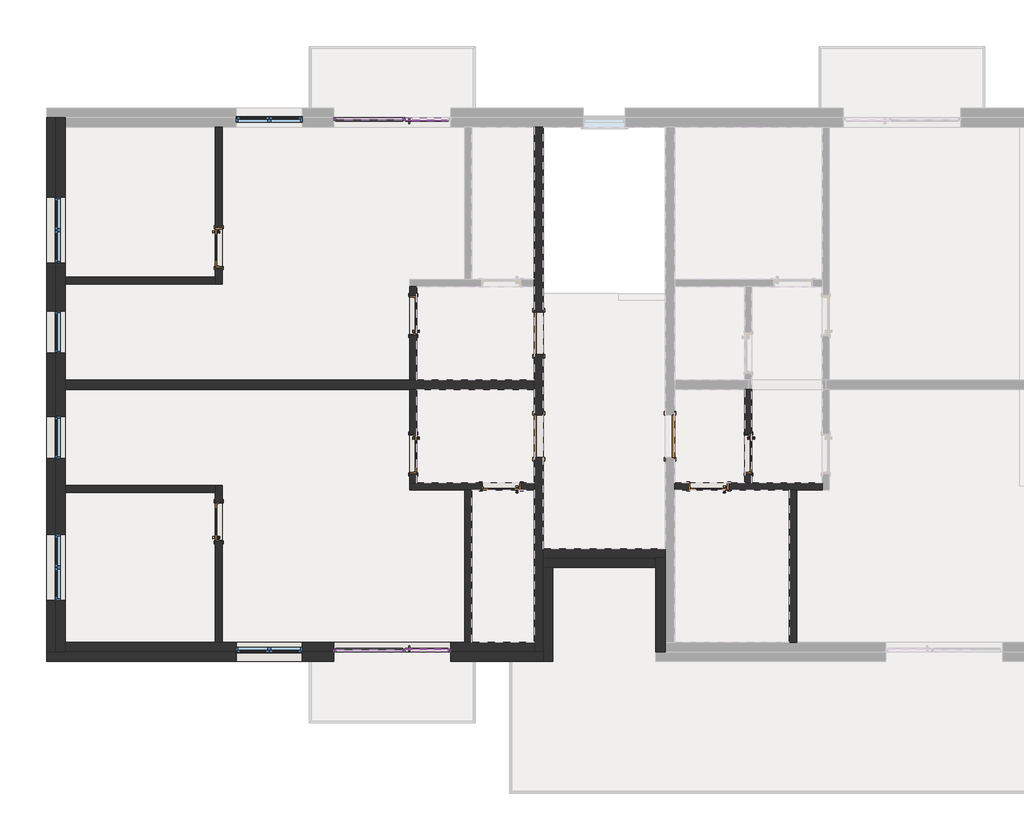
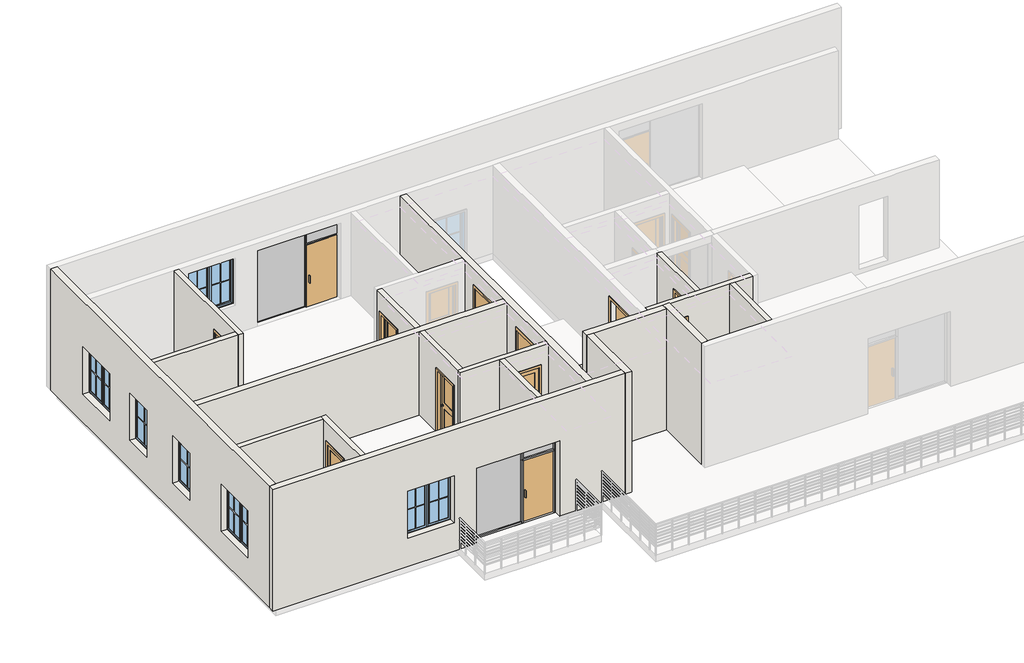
# One storey, part 1 of 6: 21 walls, 18 members, 12 doors, 6 windows, 4 plates.
"""IFC4 building model written with IfcOpenShell, lengths in millimetres."""

from ifc_helpers import new_model, si_unit, frame, origin, place, context, project, spatial, polyline, outline, extrude, faceted_brep, transform, mapped, element, save
from components import door_ff0059c9, door_21d3b074, door_800_x_2000mm_7a4eaae7, door_800_x_2000mm_50fb24a1, door_900_x_2100mm_4fa88ec2, door_900_x_2100mm_1d00f630, member_50x50_mm_0b25df5f, member_50x50_mm_3bf2a5da, member_50x50_mm_d57dae31, member_50x50_mm_7f53e2b4, member_50x50_mm_58209b6d, member_50x50_mm_0f4eb3cd, member_50x50_mm_521fa47b, plate_240b6e4f, plate_5e06e8b0, plate_9c89f185, plate_e159d5d1, window_1400_x_1500mm_e7e683e0, window_900_x_1500mm_75a88522

model = new_model("IFC4")

# Units and contexts
model_context = context("Model", 3, world=origin())
ifc_project = project(units=[si_unit("LENGTHUNIT", "METRE", prefix="MILLI")], contexts=[model_context])

# Site, building, storey
site = spatial("IfcSite", under=ifc_project)
building = spatial("IfcBuilding", under=site)
storey = spatial("IfcBuildingStorey", under=building, Name="Podlaží 2", Elevation=3000.0)

# Doors
placement = place(None, origin())
door_shape = door_ff0059c9(model_context)
element("IfcDoor", 1, ObjectType="M_Dveře, obvodový plášť, jednoduché zasklení : M_Dveře, obvodový plášť, jednoduché zasklení", at=placement, inside=storey, context=model_context, shape_type="MappedRepresentation", body=[
    mapped(door_shape, transform((7712.5, 13675.0, 3000.0), x_axis=(1.0, 0.0, 0.0), y_axis=(0.0, 1.0, 0.0), z_axis=(0.0, 0.0, 1.0))),
])
door_2_shape = door_21d3b074(model_context)
element("IfcDoor", 2, ObjectType="M_Dveře, obvodový plášť, jednoduché zasklení : M_Dveře, obvodový plášť, jednoduché zasklení", at=placement, inside=storey, context=model_context, shape_type="MappedRepresentation", body=[
    mapped(door_2_shape, transform((7712.5, 2325.0, 3000.0), x_axis=(1.0, 0.0, 0.0), y_axis=(0.0, 1.0, 0.0), z_axis=(0.0, 0.0, 1.0))),
])
door_800_x_2000mm_shape = door_800_x_2000mm_7a4eaae7(model_context)
element("IfcDoor", 3, ObjectType="M_Dveře, vnitřní, jednokřídlé, dvě části, panel, dřevo : 800 x 2000mm", at=placement, inside=storey, context=model_context, shape_type="MappedRepresentation", body=[
    mapped(door_800_x_2000mm_shape, transform((7428.175, 9475.0, 3000.0), x_axis=(0.0, 1.0, 0.0), y_axis=(-1.0, 0.0, 0.0), z_axis=(0.0, 0.0, 1.0))),
])
element("IfcDoor", 4, ObjectType="M_Dveře, vnitřní, jednokřídlé, dvě části, panel, dřevo : 800 x 2000mm", at=placement, inside=storey, context=model_context, shape_type="MappedRepresentation", body=[
    mapped(door_800_x_2000mm_shape, transform((3271.825, 10925.0, 3000.0), x_axis=(0.0, -1.0, 0.0), y_axis=(1.0, 0.0, 0.0), z_axis=(0.0, 0.0, 1.0))),
])
door_800_x_2000mm_2_shape = door_800_x_2000mm_50fb24a1(model_context)
element("IfcDoor", 5, ObjectType="M_Dveře, vnitřní, jednokřídlé, dvě části, panel, dřevo : 800 x 2000mm", at=placement, inside=storey, context=model_context, shape_type="MappedRepresentation", body=[
    mapped(door_800_x_2000mm_2_shape, transform((9300.0, 5821.825, 3000.0), x_axis=(-1.0, 0.0, 0.0), y_axis=(0.0, -1.0, 0.0), z_axis=(0.0, 0.0, 1.0))),
])
element("IfcDoor", 6, ObjectType="M_Dveře, vnitřní, jednokřídlé, dvě části, panel, dřevo : 800 x 2000mm", at=placement, inside=storey, context=model_context, shape_type="MappedRepresentation", body=[
    mapped(door_800_x_2000mm_2_shape, transform((7428.175, 6525.0, 3000.0), x_axis=(0.0, -1.0, 0.0), y_axis=(1.0, 0.0, 0.0), z_axis=(0.0, 0.0, 1.0))),
])
element("IfcDoor", 7, ObjectType="M_Dveře, vnitřní, jednokřídlé, dvě části, panel, dřevo : 800 x 2000mm", at=placement, inside=storey, context=model_context, shape_type="MappedRepresentation", body=[
    mapped(door_800_x_2000mm_2_shape, transform((3271.825, 5075.0, 3000.0), x_axis=(0.0, 1.0, 0.0), y_axis=(-1.0, 0.0, 0.0), z_axis=(0.0, 0.0, 1.0))),
])
element("IfcDoor", 8, ObjectType="M_Dveře, vnitřní, jednokřídlé, dvě části, panel, dřevo : 800 x 2000mm", at=placement, inside=storey, context=model_context, shape_type="MappedRepresentation", body=[
    mapped(door_800_x_2000mm_2_shape, transform((14578.175, 6525.0, 3000.0), x_axis=(0.0, -1.0, 0.0), y_axis=(1.0, 0.0, 0.0), z_axis=(0.0, 0.0, 1.0))),
])
element("IfcDoor", 9, ObjectType="M_Dveře, vnitřní, jednokřídlé, dvě části, panel, dřevo : 800 x 2000mm", at=placement, inside=storey, context=model_context, shape_type="MappedRepresentation", body=[
    mapped(door_800_x_2000mm_2_shape, transform((13725.0, 5821.825, 3000.0), x_axis=(-1.0, 0.0, 0.0), y_axis=(0.0, -1.0, 0.0), z_axis=(0.0, 0.0, 1.0))),
])
door_900_x_2100mm_shape = door_900_x_2100mm_4fa88ec2(model_context)
element("IfcDoor", 10, ObjectType="M_Dveře, jednokřídlé, panel : 900 x 2100mm", at=placement, inside=storey, context=model_context, shape_type="MappedRepresentation", body=[
    mapped(door_900_x_2100mm_shape, transform((10100.0, 9100.0, 3000.0), x_axis=(0.0, -1.0, 0.0), y_axis=(1.0, 0.0, 0.0), z_axis=(0.0, 0.0, 1.0))),
])
element("IfcDoor", 11, ObjectType="M_Dveře, jednokřídlé, panel : 900 x 2100mm", at=placement, inside=storey, context=model_context, shape_type="MappedRepresentation", body=[
    mapped(door_900_x_2100mm_shape, transform((12900.0, 6900.0, 3000.0), x_axis=(0.0, 1.0, 0.0), y_axis=(-1.0, 0.0, 0.0), z_axis=(0.0, 0.0, 1.0))),
])
door_900_x_2100mm_2_shape = door_900_x_2100mm_1d00f630(model_context)
element("IfcDoor", 12, ObjectType="M_Dveře, jednokřídlé, panel : 900 x 2100mm", at=placement, inside=storey, context=model_context, shape_type="MappedRepresentation", body=[
    mapped(door_900_x_2100mm_2_shape, transform((10100.0, 6900.0, 3000.0), x_axis=(0.0, 1.0, 0.0), y_axis=(-1.0, 0.0, 0.0), z_axis=(0.0, 0.0, 1.0))),
])

# Members
member_50x50_mm_shape = member_50x50_mm_0b25df5f(model_context)
element("IfcMember", 13, ObjectType="Obdélníková příčel : 50x50 mm", at=placement, inside=storey, context=model_context, shape_type="MappedRepresentation", body=[
    mapped(member_50x50_mm_shape, transform((5775.0, 2325.0, 5400.0), x_axis=(0.0, 0.0, 1.0), y_axis=(0.0, 1.0, 0.0), z_axis=(-1.0, 0.0, 0.0))),
])
member_50x50_mm_2_shape = member_50x50_mm_3bf2a5da(model_context)
element("IfcMember", 14, ObjectType="Obdélníková příčel : 50x50 mm", at=placement, inside=storey, context=model_context, shape_type="MappedRepresentation", body=[
    mapped(member_50x50_mm_2_shape, transform((7225.0, 2325.0, 3000.0), x_axis=(-1.0, 0.0, 0.0), y_axis=(0.0, 1.0, 0.0), z_axis=(0.0, 0.0, -1.0))),
])
member_50x50_mm_3_shape = member_50x50_mm_d57dae31(model_context)
element("IfcMember", 15, ObjectType="Obdélníková příčel : 50x50 mm", at=placement, inside=storey, context=model_context, shape_type="MappedRepresentation", body=[
    mapped(member_50x50_mm_3_shape, transform((7250.0, 2325.0, 5000.0), x_axis=(0.0, 0.0, 1.0), y_axis=(0.0, 1.0, 0.0), z_axis=(-1.0, 0.0, 0.0))),
])
element("IfcMember", 16, ObjectType="Obdélníková příčel : 50x50 mm", at=placement, inside=storey, context=model_context, shape_type="MappedRepresentation", body=[
    mapped(member_50x50_mm_shape, transform((7200.0, 2325.0, 3000.0), x_axis=(0.0, 0.0, -1.0), y_axis=(0.0, 1.0, 0.0), z_axis=(1.0, 0.0, 0.0))),
])
member_50x50_mm_4_shape = member_50x50_mm_7f53e2b4(model_context)
element("IfcMember", 17, ObjectType="Obdélníková příčel : 50x50 mm", at=placement, inside=storey, context=model_context, shape_type="MappedRepresentation", body=[
    mapped(member_50x50_mm_4_shape, transform((7250.0, 2325.0, 5400.0), x_axis=(0.0, 0.0, 1.0), y_axis=(0.0, 1.0, 0.0), z_axis=(-1.0, 0.0, 0.0))),
])
member_50x50_mm_5_shape = member_50x50_mm_58209b6d(model_context)
element("IfcMember", 18, ObjectType="Obdélníková příčel : 50x50 mm", at=placement, inside=storey, context=model_context, shape_type="MappedRepresentation", body=[
    mapped(member_50x50_mm_5_shape, transform((7225.0, 2325.0, 5000.0), x_axis=(-1.0, 0.0, 0.0), y_axis=(0.0, 1.0, 0.0), z_axis=(0.0, 0.0, -1.0))),
])
member_50x50_mm_6_shape = member_50x50_mm_0f4eb3cd(model_context)
element("IfcMember", 19, ObjectType="Obdélníková příčel : 50x50 mm", at=placement, inside=storey, context=model_context, shape_type="MappedRepresentation", body=[
    mapped(member_50x50_mm_6_shape, transform((8225.0, 2325.0, 5400.0), x_axis=(1.0, 0.0, 0.0), y_axis=(0.0, 1.0, 0.0), z_axis=(0.0, 0.0, 1.0))),
])
member_50x50_mm_7_shape = member_50x50_mm_521fa47b(model_context)
element("IfcMember", 20, ObjectType="Obdélníková příčel : 50x50 mm", at=placement, inside=storey, context=model_context, shape_type="MappedRepresentation", body=[
    mapped(member_50x50_mm_7_shape, transform((5725.0, 2325.0, 3000.0), x_axis=(-1.0, 0.0, 0.0), y_axis=(0.0, 1.0, 0.0), z_axis=(0.0, 0.0, -1.0))),
])
element("IfcMember", 21, ObjectType="Obdélníková příčel : 50x50 mm", at=placement, inside=storey, context=model_context, shape_type="MappedRepresentation", body=[
    mapped(member_50x50_mm_6_shape, transform((5725.0, 2325.0, 5000.0), x_axis=(-1.0, 0.0, 0.0), y_axis=(0.0, 1.0, 0.0), z_axis=(0.0, 0.0, -1.0))),
])
element("IfcMember", 22, ObjectType="Obdélníková příčel : 50x50 mm", at=placement, inside=storey, context=model_context, shape_type="MappedRepresentation", body=[
    mapped(member_50x50_mm_7_shape, transform((8225.0, 2325.0, 5000.0), x_axis=(1.0, 0.0, 0.0), y_axis=(0.0, 1.0, 0.0), z_axis=(0.0, 0.0, 1.0))),
])
element("IfcMember", 23, ObjectType="Obdélníková příčel : 50x50 mm", at=placement, inside=storey, context=model_context, shape_type="MappedRepresentation", body=[
    mapped(member_50x50_mm_shape, transform((5775.0, 13675.0, 5400.0), x_axis=(0.0, 0.0, 1.0), y_axis=(0.0, 1.0, 0.0), z_axis=(-1.0, 0.0, 0.0))),
])
element("IfcMember", 24, ObjectType="Obdélníková příčel : 50x50 mm", at=placement, inside=storey, context=model_context, shape_type="MappedRepresentation", body=[
    mapped(member_50x50_mm_2_shape, transform((7225.0, 13675.0, 3000.0), x_axis=(-1.0, 0.0, 0.0), y_axis=(0.0, 1.0, 0.0), z_axis=(0.0, 0.0, -1.0))),
])
element("IfcMember", 25, ObjectType="Obdélníková příčel : 50x50 mm", at=placement, inside=storey, context=model_context, shape_type="MappedRepresentation", body=[
    mapped(member_50x50_mm_3_shape, transform((7250.0, 13675.0, 5000.0), x_axis=(0.0, 0.0, 1.0), y_axis=(0.0, 1.0, 0.0), z_axis=(-1.0, 0.0, 0.0))),
])
element("IfcMember", 26, ObjectType="Obdélníková příčel : 50x50 mm", at=placement, inside=storey, context=model_context, shape_type="MappedRepresentation", body=[
    mapped(member_50x50_mm_shape, transform((7200.0, 13675.0, 3000.0), x_axis=(0.0, 0.0, -1.0), y_axis=(0.0, 1.0, 0.0), z_axis=(1.0, 0.0, 0.0))),
])
element("IfcMember", 27, ObjectType="Obdélníková příčel : 50x50 mm", at=placement, inside=storey, context=model_context, shape_type="MappedRepresentation", body=[
    mapped(member_50x50_mm_4_shape, transform((7250.0, 13675.0, 5400.0), x_axis=(0.0, 0.0, 1.0), y_axis=(0.0, 1.0, 0.0), z_axis=(-1.0, 0.0, 0.0))),
])
element("IfcMember", 28, ObjectType="Obdélníková příčel : 50x50 mm", at=placement, inside=storey, context=model_context, shape_type="MappedRepresentation", body=[
    mapped(member_50x50_mm_5_shape, transform((7225.0, 13675.0, 5000.0), x_axis=(-1.0, 0.0, 0.0), y_axis=(0.0, 1.0, 0.0), z_axis=(0.0, 0.0, -1.0))),
])
element("IfcMember", 29, ObjectType="Obdélníková příčel : 50x50 mm", at=placement, inside=storey, context=model_context, shape_type="MappedRepresentation", body=[
    mapped(member_50x50_mm_7_shape, transform((5725.0, 13675.0, 3000.0), x_axis=(-1.0, 0.0, 0.0), y_axis=(0.0, 1.0, 0.0), z_axis=(0.0, 0.0, -1.0))),
])
element("IfcMember", 30, ObjectType="Obdélníková příčel : 50x50 mm", at=placement, inside=storey, context=model_context, shape_type="MappedRepresentation", body=[
    mapped(member_50x50_mm_6_shape, transform((5725.0, 13675.0, 5000.0), x_axis=(-1.0, 0.0, 0.0), y_axis=(0.0, 1.0, 0.0), z_axis=(0.0, 0.0, -1.0))),
])

# Plates
plate_shape = plate_240b6e4f(model_context)
element("IfcPlate", 31, ObjectType="Systémový panel : Zasklené", at=placement, inside=storey, context=model_context, shape_type="MappedRepresentation", body=[
    mapped(plate_shape, transform((6487.5, 13675.0, 3050.0), x_axis=(-1.0, 0.0, 0.0), y_axis=(0.0, -1.0, 0.0), z_axis=(0.0, 0.0, 1.0))),
])
plate_2_shape = plate_5e06e8b0(model_context)
element("IfcPlate", 32, ObjectType="Systémový panel : Zasklené", at=placement, inside=storey, context=model_context, shape_type="MappedRepresentation", body=[
    mapped(plate_2_shape, transform((7712.5, 13675.0, 5025.0), x_axis=(-1.0, 0.0, 0.0), y_axis=(0.0, -1.0, 0.0), z_axis=(0.0, 0.0, 1.0))),
])
plate_3_shape = plate_9c89f185(model_context)
element("IfcPlate", 33, ObjectType="Systémový panel : Zasklené", at=placement, inside=storey, context=model_context, shape_type="MappedRepresentation", body=[
    mapped(plate_3_shape, transform((6487.5, 2325.0, 3050.0), x_axis=(-1.0, 0.0, 0.0), y_axis=(0.0, -1.0, 0.0), z_axis=(0.0, 0.0, 1.0))),
])
plate_4_shape = plate_e159d5d1(model_context)
element("IfcPlate", 34, ObjectType="Systémový panel : Zasklené", at=placement, inside=storey, context=model_context, shape_type="MappedRepresentation", body=[
    mapped(plate_4_shape, transform((7712.5, 2325.0, 5025.0), x_axis=(-1.0, 0.0, 0.0), y_axis=(0.0, -1.0, 0.0), z_axis=(0.0, 0.0, 1.0))),
])

# Walls
element("IfcWall", 35, ObjectType="Železobeton 200 mm", at=placement, inside=storey, context=model_context, shape_type="Brep", body=[
    faceted_brep([(0.0, 2300.0, 2850.0), (0.0, 2500.0, 2850.0), (0.0, 5700.0, 2850.0), (0.0, 5850.0, 2850.0), (0.0, 7900.0, 2850.0), (0.0, 8100.0, 2850.0), (0.0, 10150.0, 2850.0), (0.0, 10300.0, 2850.0), (0.0, 13500.0, 2850.0), (0.0, 13700.0, 2850.0), (0.0, 13700.0, 5650.0), (0.0, 13500.0, 5650.0), (0.0, 10300.0, 5650.0), (0.0, 10150.0, 5650.0), (0.0, 8100.0, 5650.0), (0.0, 7900.0, 5650.0), (0.0, 5850.0, 5650.0), (0.0, 5700.0, 5650.0), (0.0, 2500.0, 5650.0), (0.0, 2300.0, 5650.0), (0.0, 3400.0, 5400.0), (0.0, 4800.0, 5400.0), (0.0, 4800.0, 3900.0), (0.0, 3400.0, 3900.0), (0.0, 10600.0, 5400.0), (0.0, 12000.0, 5400.0), (0.0, 12000.0, 3900.0), (0.0, 10600.0, 3900.0), (0.0, 6425.0, 5400.0), (0.0, 7325.0, 5400.0), (0.0, 7325.0, 3900.0), (0.0, 6425.0, 3900.0), (0.0, 8675.0, 5400.0), (0.0, 9575.0, 5400.0), (0.0, 9575.0, 3900.0), (0.0, 8675.0, 3900.0), (-200.0, 2300.0, 2850.0), (-200.0, 2300.0, 3000.0), (-200.0, 2300.0, 5650.0), (-200.0, 13700.0, 5650.0), (-200.0, 13700.0, 3000.0), (-200.0, 13700.0, 2850.0), (-200.0, 3400.0, 5400.0), (-200.0, 3400.0, 3900.0), (-200.0, 4800.0, 3900.0), (-200.0, 4800.0, 5400.0), (-200.0, 10600.0, 5400.0), (-200.0, 10600.0, 3900.0), (-200.0, 12000.0, 3900.0), (-200.0, 12000.0, 5400.0), (-200.0, 6425.0, 5400.0), (-200.0, 6425.0, 3900.0), (-200.0, 7325.0, 3900.0), (-200.0, 7325.0, 5400.0), (-200.0, 8675.0, 5400.0), (-200.0, 8675.0, 3900.0), (-200.0, 9575.0, 3900.0), (-200.0, 9575.0, 5400.0)], [[[0, 1, 2, 3, 4, 5, 6, 7, 8, 9, 10, 11, 12, 13, 14, 15, 16, 17, 18, 19], [20, 21, 22, 23], [24, 25, 26, 27], [28, 29, 30, 31], [32, 33, 34, 35]], [[36, 37, 38, 39, 40, 41], [42, 43, 44, 45], [46, 47, 48, 49], [50, 51, 52, 53], [54, 55, 56, 57]], [[9, 8, 7, 6, 5, 4, 3, 2, 1, 0, 36, 41]], [[19, 18, 17, 16, 15, 14, 13, 12, 11, 10, 39, 38]], [[10, 9, 41, 40, 39]], [[0, 19, 38, 37, 36]], [[43, 42, 20, 23]], [[44, 43, 23, 22]], [[45, 44, 22, 21]], [[42, 45, 21, 20]], [[47, 46, 24, 27]], [[48, 47, 27, 26]], [[49, 48, 26, 25]], [[46, 49, 25, 24]], [[51, 50, 28, 31]], [[52, 51, 31, 30]], [[53, 52, 30, 29]], [[50, 53, 29, 28]], [[55, 54, 32, 35]], [[56, 55, 35, 34]], [[57, 56, 34, 33]], [[54, 57, 33, 32]]]),
])
element("IfcWall", 36, ObjectType="Železobeton 200 mm", at=placement, inside=storey, context=model_context, shape_type="Brep", body=[
    faceted_brep([(12800.0, 4500.0, 2850.0), (10200.0, 4500.0, 2850.0), (10200.0, 4500.0, 5650.0), (12800.0, 4500.0, 5650.0), (12800.0, 4300.0, 2850.0), (12800.0, 4300.0, 3000.0), (12800.0, 4300.0, 5650.0), (10200.0, 4300.0, 5650.0), (10200.0, 4300.0, 3000.0), (10200.0, 4300.0, 2850.0)], [[[0, 1, 2, 3]], [[4, 5, 6, 7, 8, 9]], [[1, 0, 4, 9]], [[3, 2, 7, 6]], [[0, 3, 6, 5, 4]], [[2, 1, 9, 8, 7]]]),
])
element("IfcWall", 37, ObjectType="Železobeton 200 mm", at=placement, inside=storey, context=model_context, shape_type="Brep", body=[
    faceted_brep([(10000.0, 13500.0, 2850.0), (10000.0, 10250.0, 2850.0), (10000.0, 10100.0, 2850.0), (10000.0, 8100.0, 2850.0), (10000.0, 7900.0, 2850.0), (10000.0, 5900.0, 2850.0), (10000.0, 5750.0, 2850.0), (10000.0, 2500.0, 2850.0), (10000.0, 2300.0, 2850.0), (10000.0, 2300.0, 5650.0), (10000.0, 2500.0, 5650.0), (10000.0, 5750.0, 5650.0), (10000.0, 5900.0, 5650.0), (10000.0, 7900.0, 5650.0), (10000.0, 8100.0, 5650.0), (10000.0, 10100.0, 5650.0), (10000.0, 10250.0, 5650.0), (10000.0, 13500.0, 5650.0), (10000.0, 9550.0, 3000.0), (10000.0, 9550.0, 5100.0), (10000.0, 8650.0, 5100.0), (10000.0, 8650.0, 3000.0), (10000.0, 6450.0, 3000.0), (10000.0, 7350.0, 3000.0), (10000.0, 7350.0, 5100.0), (10000.0, 6450.0, 5100.0), (10200.0, 13500.0, 2850.0), (10200.0, 13500.0, 5650.0), (10200.0, 4500.0, 5650.0), (10200.0, 4300.0, 5650.0), (10200.0, 2300.0, 5650.0), (10200.0, 2300.0, 3000.0), (10200.0, 2300.0, 2850.0), (10200.0, 4300.0, 2850.0), (10200.0, 4500.0, 2850.0), (10200.0, 9550.0, 3000.0), (10200.0, 8650.0, 3000.0), (10200.0, 8650.0, 5100.0), (10200.0, 9550.0, 5100.0), (10200.0, 6450.0, 3000.0), (10200.0, 6450.0, 5100.0), (10200.0, 7350.0, 5100.0), (10200.0, 7350.0, 3000.0)], [[[0, 1, 2, 3, 4, 5, 6, 7, 8, 9, 10, 11, 12, 13, 14, 15, 16, 17], [18, 19, 20, 21], [22, 23, 24, 25]], [[26, 27, 28, 29, 30, 31, 32, 33, 34], [35, 36, 37, 38], [39, 40, 41, 42]], [[8, 7, 6, 5, 4, 3, 2, 1, 0, 26, 34, 33, 32]], [[17, 16, 15, 14, 13, 12, 11, 10, 9, 30, 29, 28, 27]], [[9, 8, 32, 31, 30]], [[0, 17, 27, 26]], [[36, 35, 18, 21]], [[37, 36, 21, 20]], [[38, 37, 20, 19]], [[35, 38, 19, 18]], [[23, 22, 39, 42]], [[24, 23, 42, 41]], [[25, 24, 41, 40]], [[22, 25, 40, 39]]]),
])
element("IfcWall", 38, ObjectType="Železobeton 200 mm", at=placement, inside=storey, context=model_context, shape_type="Brep", body=[
    faceted_brep([(10000.0, 2500.0, 2850.0), (8675.0, 2500.0, 2850.0), (8525.0, 2500.0, 2850.0), (3350.0, 2500.0, 2850.0), (3200.0, 2500.0, 2850.0), (0.0, 2500.0, 2850.0), (0.0, 2500.0, 5650.0), (3200.0, 2500.0, 5650.0), (3350.0, 2500.0, 5650.0), (8525.0, 2500.0, 5650.0), (8675.0, 2500.0, 5650.0), (10000.0, 2500.0, 5650.0), (5050.0, 2500.0, 5400.0), (3650.0, 2500.0, 5400.0), (3650.0, 2500.0, 3900.0), (5050.0, 2500.0, 3900.0), (8225.0, 2500.0, 3000.0), (8225.0, 2500.0, 5400.0), (5725.0, 2500.0, 5400.0), (5725.0, 2500.0, 3000.0), (0.0, 2300.0, 2850.0), (10000.0, 2300.0, 2850.0), (10000.0, 2300.0, 5650.0), (0.0, 2300.0, 5650.0), (5050.0, 2300.0, 5400.0), (5050.0, 2300.0, 3900.0), (3650.0, 2300.0, 3900.0), (3650.0, 2300.0, 5400.0), (8225.0, 2300.0, 5400.0), (8225.0, 2300.0, 3000.0), (5725.0, 2300.0, 3000.0), (5725.0, 2300.0, 5400.0)], [[[0, 1, 2, 3, 4, 5, 6, 7, 8, 9, 10, 11], [12, 13, 14, 15], [16, 17, 18, 19]], [[20, 21, 22, 23], [24, 25, 26, 27], [28, 29, 30, 31]], [[5, 4, 3, 2, 1, 0, 21, 20]], [[11, 10, 9, 8, 7, 6, 23, 22]], [[0, 11, 22, 21]], [[6, 5, 20, 23]], [[25, 24, 12, 15]], [[26, 25, 15, 14]], [[27, 26, 14, 13]], [[24, 27, 13, 12]], [[16, 29, 28, 17]], [[17, 28, 31, 18]], [[18, 31, 30, 19]], [[29, 16, 19, 30]]]),
])
element("IfcWall", 39, ObjectType="Železobeton 200 mm", at=placement, inside=storey, context=model_context, shape_type="Brep", body=[
    faceted_brep([(0.0, 7900.0, 2850.0), (7350.0, 7900.0, 2850.0), (7500.0, 7900.0, 2850.0), (10000.0, 7900.0, 2850.0), (10000.0, 7900.0, 5650.0), (7500.0, 7900.0, 5650.0), (7350.0, 7900.0, 5650.0), (0.0, 7900.0, 5650.0), (0.0, 8100.0, 2850.0), (0.0, 8100.0, 5650.0), (7350.0, 8100.0, 5650.0), (7500.0, 8100.0, 5650.0), (10000.0, 8100.0, 5650.0), (10000.0, 8100.0, 2850.0), (7500.0, 8100.0, 2850.0), (7350.0, 8100.0, 2850.0)], [[[0, 1, 2, 3, 4, 5, 6, 7]], [[8, 9, 10, 11, 12, 13, 14, 15]], [[3, 2, 1, 0, 8, 15, 14, 13]], [[7, 6, 5, 4, 12, 11, 10, 9]], [[4, 3, 13, 12]], [[0, 7, 9, 8]]]),
])
element("IfcWall", 40, ObjectType="Obecné, 150mm cihla", at=placement, inside=storey, context=model_context, shape_type="SweptSolid", body=[
    extrude(outline(polyline([(10100.0, 2850.0), (8100.0, 2850.0), (8100.0, 5650.0), (10100.0, 5650.0), (10100.0, 2850.0)]), holes=[polyline([(9900.0, 3000.0), (9900.0, 5025.0), (9050.0, 5025.0), (9050.0, 3000.0), (9900.0, 3000.0)])]), frame((7350.0, 0.0, 0.0), z_axis=(1.0, 0.0, 0.0), x_axis=(0.0, 1.0, 0.0)), (0.0, 0.0, 1.0), 150.0),
])
element("IfcWall", 41, ObjectType="Obecné, 150mm cihla", at=placement, inside=storey, context=model_context, shape_type="Brep", body=[
    faceted_brep([(3200.0, 13500.0, 2850.0), (3200.0, 10300.0, 2850.0), (3200.0, 10150.0, 2850.0), (3200.0, 10150.0, 5650.0), (3200.0, 10300.0, 5650.0), (3200.0, 13500.0, 5650.0), (3200.0, 10500.0, 5025.0), (3200.0, 10500.0, 3000.0), (3200.0, 11350.0, 3000.0), (3200.0, 11350.0, 5025.0), (3350.0, 10150.0, 2850.0), (3350.0, 13500.0, 2850.0), (3350.0, 13500.0, 5650.0), (3350.0, 10150.0, 5650.0), (3350.0, 10500.0, 3000.0), (3350.0, 10500.0, 5025.0), (3350.0, 11350.0, 5025.0), (3350.0, 11350.0, 3000.0)], [[[0, 1, 2, 3, 4, 5], [6, 7, 8, 9]], [[10, 11, 12, 13], [14, 15, 16, 17]], [[2, 1, 0, 11, 10]], [[5, 4, 3, 13, 12]], [[0, 5, 12, 11]], [[3, 2, 10, 13]], [[14, 7, 6, 15]], [[15, 6, 9, 16]], [[16, 9, 8, 17]], [[7, 14, 17, 8]]]),
])
element("IfcWall", 42, ObjectType="Obecné, 150mm cihla", at=placement, inside=storey, context=model_context, shape_type="SweptSolid", body=[
    extrude(outline(polyline([(0.0, 10300.0), (3200.0, 10300.0), (3200.0, 10150.0), (0.0, 10150.0), (0.0, 10300.0)])), frame((0.0, 0.0, 2850.0), z_axis=(0.0, 0.0, 1.0), x_axis=(1.0, 0.0, 0.0)), (0.0, 0.0, 1.0), 2800.0),
])
element("IfcWall", 43, ObjectType="Obecné, 150mm cihla", at=placement, inside=storey, context=model_context, shape_type="Brep", body=[
    faceted_brep([(10000.0, 5900.0, 2850.0), (7500.0, 5900.0, 2850.0), (7350.0, 5900.0, 2850.0), (7350.0, 5900.0, 5650.0), (7500.0, 5900.0, 5650.0), (10000.0, 5900.0, 5650.0), (8875.0, 5900.0, 5025.0), (8875.0, 5900.0, 3000.0), (9725.0, 5900.0, 3000.0), (9725.0, 5900.0, 5025.0), (7350.0, 5750.0, 2850.0), (8525.0, 5750.0, 2850.0), (8675.0, 5750.0, 2850.0), (10000.0, 5750.0, 2850.0), (10000.0, 5750.0, 5650.0), (8675.0, 5750.0, 5650.0), (8525.0, 5750.0, 5650.0), (7350.0, 5750.0, 5650.0), (8875.0, 5750.0, 3000.0), (8875.0, 5750.0, 5025.0), (9725.0, 5750.0, 5025.0), (9725.0, 5750.0, 3000.0)], [[[0, 1, 2, 3, 4, 5], [6, 7, 8, 9]], [[10, 11, 12, 13, 14, 15, 16, 17], [18, 19, 20, 21]], [[2, 1, 0, 13, 12, 11, 10]], [[5, 4, 3, 17, 16, 15, 14]], [[3, 2, 10, 17]], [[0, 5, 14, 13]], [[18, 7, 6, 19]], [[19, 6, 9, 20]], [[20, 9, 8, 21]], [[7, 18, 21, 8]]]),
])
element("IfcWall", 44, ObjectType="Obecné, 150mm cihla", at=placement, inside=storey, context=model_context, shape_type="SweptSolid", body=[
    extrude(outline(polyline([(7900.0, 2850.0), (5900.0, 2850.0), (5900.0, 5650.0), (7900.0, 5650.0), (7900.0, 2850.0)]), holes=[polyline([(6100.0, 5025.0), (6100.0, 3000.0), (6950.0, 3000.0), (6950.0, 5025.0), (6100.0, 5025.0)])]), frame((7350.0, 0.0, 0.0), z_axis=(1.0, 0.0, 0.0), x_axis=(0.0, 1.0, 0.0)), (0.0, 0.0, 1.0), 150.0),
])
element("IfcWall", 45, ObjectType="Obecné, 150mm cihla", at=placement, inside=storey, context=model_context, shape_type="SweptSolid", body=[
    extrude(outline(polyline([(8525.0, 2500.0), (8525.0, 5750.0), (8675.0, 5750.0), (8675.0, 2500.0), (8525.0, 2500.0)])), frame((0.0, 0.0, 2850.0), z_axis=(0.0, 0.0, 1.0), x_axis=(1.0, 0.0, 0.0)), (0.0, 0.0, 1.0), 2800.0),
])
element("IfcWall", 46, ObjectType="Obecné, 150mm cihla", at=placement, inside=storey, context=model_context, shape_type="Brep", body=[
    faceted_brep([(3350.0, 2500.0, 2850.0), (3350.0, 5850.0, 2850.0), (3350.0, 5850.0, 5650.0), (3350.0, 2500.0, 5650.0), (3350.0, 5500.0, 5025.0), (3350.0, 5500.0, 3000.0), (3350.0, 4650.0, 3000.0), (3350.0, 4650.0, 5025.0), (3200.0, 5850.0, 2850.0), (3200.0, 5700.0, 2850.0), (3200.0, 2500.0, 2850.0), (3200.0, 2500.0, 5650.0), (3200.0, 5700.0, 5650.0), (3200.0, 5850.0, 5650.0), (3200.0, 5500.0, 3000.0), (3200.0, 5500.0, 5025.0), (3200.0, 4650.0, 5025.0), (3200.0, 4650.0, 3000.0)], [[[0, 1, 2, 3], [4, 5, 6, 7]], [[8, 9, 10, 11, 12, 13], [14, 15, 16, 17]], [[1, 0, 10, 9, 8]], [[3, 2, 13, 12, 11]], [[2, 1, 8, 13]], [[0, 3, 11, 10]], [[14, 5, 4, 15]], [[15, 4, 7, 16]], [[16, 7, 6, 17]], [[5, 14, 17, 6]]]),
])
element("IfcWall", 47, ObjectType="Obecné, 150mm cihla", at=placement, inside=storey, context=model_context, shape_type="SweptSolid", body=[
    extrude(outline(polyline([(0.0, 5850.0), (3200.0, 5850.0), (3200.0, 5700.0), (0.0, 5700.0), (0.0, 5850.0)])), frame((0.0, 0.0, 2850.0), z_axis=(0.0, 0.0, 1.0), x_axis=(1.0, 0.0, 0.0)), (0.0, 0.0, 1.0), 2800.0),
])
element("IfcWall", 48, ObjectType="Obecné, 150mm cihla", at=placement, inside=storey, context=model_context, shape_type="Brep", body=[
    faceted_brep([(14650.0, 5900.0, 2850.0), (14650.0, 7900.0, 2850.0), (14650.0, 7900.0, 3000.0), (14650.0, 7900.0, 5400.0), (14650.0, 7900.0, 5650.0), (14650.0, 5900.0, 5650.0), (14650.0, 6100.0, 3000.0), (14650.0, 6100.0, 5025.0), (14650.0, 6950.0, 5025.0), (14650.0, 6950.0, 3000.0), (14500.0, 7900.0, 2850.0), (14500.0, 5900.0, 2850.0), (14500.0, 5900.0, 5650.0), (14500.0, 7900.0, 5650.0), (14500.0, 6100.0, 5025.0), (14500.0, 6100.0, 3000.0), (14500.0, 6950.0, 3000.0), (14500.0, 6950.0, 5025.0), (14575.0, 7900.0, 2850.0), (14575.0, 7900.0, 5650.0)], [[[0, 1, 2, 3, 4, 5], [6, 7, 8, 9]], [[10, 11, 12, 13], [14, 15, 16, 17]], [[1, 0, 11, 10, 18]], [[5, 4, 19, 13, 12]], [[0, 5, 12, 11]], [[6, 15, 14, 7]], [[7, 14, 17, 8]], [[8, 17, 16, 9]], [[15, 6, 9, 16]], [[4, 3, 2, 1, 18, 10, 13, 19]]]),
])
element("IfcWall", 49, ObjectType="Obecné, 150mm cihla", at=placement, inside=storey, context=model_context, shape_type="Brep", body=[
    faceted_brep([(13000.0, 5750.0, 2850.0), (15450.0, 5750.0, 2850.0), (15600.0, 5750.0, 2850.0), (16150.0, 5750.0, 2850.0), (16150.0, 5750.0, 5650.0), (15600.0, 5750.0, 5650.0), (15450.0, 5750.0, 5650.0), (13000.0, 5750.0, 5650.0), (13300.0, 5750.0, 3000.0), (13300.0, 5750.0, 5025.0), (14150.0, 5750.0, 5025.0), (14150.0, 5750.0, 3000.0), (16150.0, 5900.0, 2850.0), (14650.0, 5900.0, 2850.0), (14500.0, 5900.0, 2850.0), (13000.0, 5900.0, 2850.0), (13000.0, 5900.0, 5650.0), (14500.0, 5900.0, 5650.0), (14650.0, 5900.0, 5650.0), (16150.0, 5900.0, 5650.0), (13300.0, 5900.0, 5025.0), (13300.0, 5900.0, 3000.0), (14150.0, 5900.0, 3000.0), (14150.0, 5900.0, 5025.0)], [[[0, 1, 2, 3, 4, 5, 6, 7], [8, 9, 10, 11]], [[12, 13, 14, 15, 16, 17, 18, 19], [20, 21, 22, 23]], [[3, 2, 1, 0, 15, 14, 13, 12]], [[7, 6, 5, 4, 19, 18, 17, 16]], [[0, 7, 16, 15]], [[4, 3, 12, 19]], [[8, 21, 20, 9]], [[9, 20, 23, 10]], [[10, 23, 22, 11]], [[21, 8, 11, 22]]]),
])
element("IfcWall", 50, ObjectType="Obecné, 150mm cihla", at=placement, inside=storey, context=model_context, shape_type="SweptSolid", body=[
    extrude(outline(polyline([(15450.0, 2500.0), (15450.0, 5750.0), (15600.0, 5750.0), (15600.0, 2500.0), (15450.0, 2500.0)])), frame((0.0, 0.0, 2850.0), z_axis=(0.0, 0.0, 1.0), x_axis=(1.0, 0.0, 0.0)), (0.0, 0.0, 1.0), 2800.0),
])
element("IfcWall", 51, ObjectType="ETICS, 200mm", at=placement, inside=storey, context=model_context, shape_type="Brep", body=[
    faceted_brep([(12800.0, 2300.0, 3000.0), (12800.0, 4300.0, 3000.0), (12800.0, 4300.0, 5650.0), (12800.0, 4300.0, 6850.0), (12800.0, 2300.0, 6850.0), (12800.0, 2300.0, 5650.0), (12600.0, 2300.0, 3000.0), (12600.0, 2300.0, 6850.0), (12600.0, 4100.0, 6850.0), (12600.0, 4300.0, 6850.0), (12600.0, 4300.0, 3000.0), (12600.0, 4100.0, 3000.0)], [[[0, 1, 2, 3, 4, 5]], [[6, 7, 8, 9, 10, 11]], [[1, 0, 6, 11, 10]], [[4, 3, 9, 8, 7]], [[0, 5, 4, 7, 6]], [[3, 2, 1, 10, 9]]]),
])
element("IfcWall", 52, ObjectType="ETICS, 200mm", at=placement, inside=storey, context=model_context, shape_type="Brep", body=[
    faceted_brep([(12600.0, 4300.0, 3000.0), (10200.0, 4300.0, 3000.0), (10200.0, 4300.0, 5650.0), (10200.0, 4300.0, 6850.0), (12600.0, 4300.0, 6850.0), (12600.0, 4100.0, 3000.0), (12600.0, 4100.0, 6850.0), (10400.0, 4100.0, 6850.0), (10200.0, 4100.0, 6850.0), (10200.0, 4100.0, 3000.0), (10400.0, 4100.0, 3000.0)], [[[0, 1, 2, 3, 4]], [[5, 6, 7, 8, 9, 10]], [[1, 0, 5, 10, 9]], [[4, 3, 8, 7, 6]], [[0, 4, 6, 5]], [[3, 2, 1, 9, 8]]]),
])
element("IfcWall", 53, ObjectType="ETICS, 200mm", at=placement, inside=storey, context=model_context, shape_type="Brep", body=[
    faceted_brep([(10200.0, 4100.0, 3000.0), (10200.0, 2300.0, 3000.0), (10200.0, 2100.0, 3000.0), (10200.0, 2100.0, 6850.0), (10200.0, 2300.0, 6850.0), (10200.0, 4100.0, 6850.0), (10400.0, 4100.0, 3000.0), (10400.0, 4100.0, 6850.0), (10400.0, 2100.0, 6850.0), (10400.0, 2100.0, 3000.0)], [[[0, 1, 2, 3, 4, 5]], [[6, 7, 8, 9]], [[2, 1, 0, 6, 9]], [[5, 4, 3, 8, 7]], [[3, 2, 9, 8]], [[0, 5, 7, 6]]]),
])
element("IfcWall", 54, ObjectType="ETICS, 200mm", at=placement, inside=storey, context=model_context, shape_type="Brep", body=[
    faceted_brep([(-400.0, 2300.0, 6850.0), (-200.0, 2300.0, 6850.0), (10200.0, 2300.0, 6850.0), (10200.0, 2300.0, 5650.0), (10200.0, 2300.0, 3000.0), (8225.0, 2300.0, 3000.0), (8225.0, 2300.0, 5400.0), (5725.0, 2300.0, 5400.0), (5725.0, 2300.0, 3000.0), (-200.0, 2300.0, 3000.0), (-400.0, 2300.0, 3000.0), (5050.0, 2300.0, 5400.0), (3650.0, 2300.0, 5400.0), (3650.0, 2300.0, 3900.0), (5050.0, 2300.0, 3900.0), (10200.0, 2100.0, 6850.0), (-400.0, 2100.0, 6850.0), (-400.0, 2100.0, 3000.0), (5725.0, 2100.0, 3000.0), (5725.0, 2100.0, 5400.0), (8225.0, 2100.0, 5400.0), (8225.0, 2100.0, 3000.0), (10200.0, 2100.0, 3000.0), (5050.0, 2100.0, 5400.0), (5050.0, 2100.0, 3900.0), (3650.0, 2100.0, 3900.0), (3650.0, 2100.0, 5400.0)], [[[0, 1, 2, 3, 4, 5, 6, 7, 8, 9, 10], [11, 12, 13, 14]], [[15, 16, 17, 18, 19, 20, 21, 22], [23, 24, 25, 26]], [[4, 22, 21, 5]], [[17, 10, 9, 8, 18]], [[2, 1, 0, 16, 15]], [[4, 3, 2, 15, 22]], [[0, 10, 17, 16]], [[24, 23, 11, 14]], [[25, 24, 14, 13]], [[26, 25, 13, 12]], [[23, 26, 12, 11]], [[20, 6, 5, 21]], [[6, 20, 19, 7]], [[7, 19, 18, 8]]]),
])
element("IfcWall", 55, ObjectType="ETICS, 200mm", at=placement, inside=storey, context=model_context, shape_type="Brep", body=[
    faceted_brep([(-200.0, 2300.0, 3000.0), (-200.0, 13700.0, 3000.0), (-200.0, 13700.0, 5650.0), (-200.0, 13700.0, 6850.0), (-200.0, 2300.0, 6850.0), (-200.0, 2300.0, 5650.0), (-200.0, 3400.0, 5400.0), (-200.0, 4800.0, 5400.0), (-200.0, 4800.0, 3900.0), (-200.0, 3400.0, 3900.0), (-200.0, 10600.0, 5400.0), (-200.0, 12000.0, 5400.0), (-200.0, 12000.0, 3900.0), (-200.0, 10600.0, 3900.0), (-200.0, 6425.0, 5400.0), (-200.0, 7325.0, 5400.0), (-200.0, 7325.0, 3900.0), (-200.0, 6425.0, 3900.0), (-200.0, 8675.0, 5400.0), (-200.0, 9575.0, 5400.0), (-200.0, 9575.0, 3900.0), (-200.0, 8675.0, 3900.0), (-400.0, 2300.0, 3000.0), (-400.0, 2300.0, 6850.0), (-400.0, 13700.0, 6850.0), (-400.0, 13700.0, 3000.0), (-400.0, 3400.0, 5400.0), (-400.0, 3400.0, 3900.0), (-400.0, 4800.0, 3900.0), (-400.0, 4800.0, 5400.0), (-400.0, 10600.0, 5400.0), (-400.0, 10600.0, 3900.0), (-400.0, 12000.0, 3900.0), (-400.0, 12000.0, 5400.0), (-400.0, 6425.0, 5400.0), (-400.0, 6425.0, 3900.0), (-400.0, 7325.0, 3900.0), (-400.0, 7325.0, 5400.0), (-400.0, 8675.0, 5400.0), (-400.0, 8675.0, 3900.0), (-400.0, 9575.0, 3900.0), (-400.0, 9575.0, 5400.0)], [[[0, 1, 2, 3, 4, 5], [6, 7, 8, 9], [10, 11, 12, 13], [14, 15, 16, 17], [18, 19, 20, 21]], [[22, 23, 24, 25], [26, 27, 28, 29], [30, 31, 32, 33], [34, 35, 36, 37], [38, 39, 40, 41]], [[1, 0, 22, 25]], [[4, 3, 24, 23]], [[3, 2, 1, 25, 24]], [[0, 5, 4, 23, 22]], [[27, 26, 6, 9]], [[28, 27, 9, 8]], [[29, 28, 8, 7]], [[26, 29, 7, 6]], [[31, 30, 10, 13]], [[32, 31, 13, 12]], [[33, 32, 12, 11]], [[30, 33, 11, 10]], [[35, 34, 14, 17]], [[36, 35, 17, 16]], [[37, 36, 16, 15]], [[34, 37, 15, 14]], [[39, 38, 18, 21]], [[40, 39, 21, 20]], [[41, 40, 20, 19]], [[38, 41, 19, 18]]]),
])

# Windows
window_1400_x_1500mm_shape = window_1400_x_1500mm_e7e683e0(model_context)
element("IfcWindow", 56, ObjectType="M_Okno, dvoukřídlé : 1400 x 1500mm", at=placement, inside=storey, context=model_context, shape_type="MappedRepresentation", body=[
    mapped(window_1400_x_1500mm_shape, transform((4350.0, 2400.0, 3000.0), x_axis=(1.0, 0.0, 0.0), y_axis=(0.0, 1.0, 0.0), z_axis=(0.0, 0.0, 1.0))),
])
element("IfcWindow", 57, ObjectType="M_Okno, dvoukřídlé : 1400 x 1500mm", at=placement, inside=storey, context=model_context, shape_type="MappedRepresentation", body=[
    mapped(window_1400_x_1500mm_shape, transform((-100.0, 4100.0, 3000.0), x_axis=(0.0, -1.0, 0.0), y_axis=(1.0, 0.0, 0.0), z_axis=(0.0, 0.0, 1.0))),
])
element("IfcWindow", 58, ObjectType="M_Okno, dvoukřídlé : 1400 x 1500mm", at=placement, inside=storey, context=model_context, shape_type="MappedRepresentation", body=[
    mapped(window_1400_x_1500mm_shape, transform((-100.0, 11300.0, 3000.0), x_axis=(0.0, -1.0, 0.0), y_axis=(1.0, 0.0, 0.0), z_axis=(0.0, 0.0, 1.0))),
])
element("IfcWindow", 59, ObjectType="M_Okno, dvoukřídlé : 1400 x 1500mm", at=placement, inside=storey, context=model_context, shape_type="MappedRepresentation", body=[
    mapped(window_1400_x_1500mm_shape, transform((4350.0, 13600.0, 3000.0), x_axis=(-1.0, 0.0, 0.0), y_axis=(0.0, -1.0, 0.0), z_axis=(0.0, 0.0, 1.0))),
])
window_900_x_1500mm_shape = window_900_x_1500mm_75a88522(model_context)
element("IfcWindow", 60, ObjectType="M_Okno, křídlo, samostatné levé : 900 x 1500mm", at=placement, inside=storey, context=model_context, shape_type="MappedRepresentation", body=[
    mapped(window_900_x_1500mm_shape, transform((-100.0, 6875.0, 3000.0), x_axis=(0.0, -1.0, 0.0), y_axis=(1.0, 0.0, 0.0), z_axis=(0.0, 0.0, 1.0))),
])
element("IfcWindow", 61, ObjectType="M_Okno, křídlo, samostatné levé : 900 x 1500mm", at=placement, inside=storey, context=model_context, shape_type="MappedRepresentation", body=[
    mapped(window_900_x_1500mm_shape, transform((-100.0, 9125.0, 3000.0), x_axis=(0.0, -1.0, 0.0), y_axis=(1.0, 0.0, 0.0), z_axis=(0.0, 0.0, 1.0))),
])

save(model, "model.ifc")
